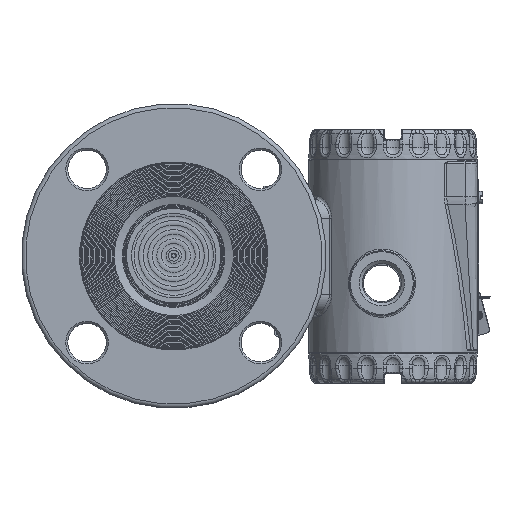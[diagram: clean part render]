
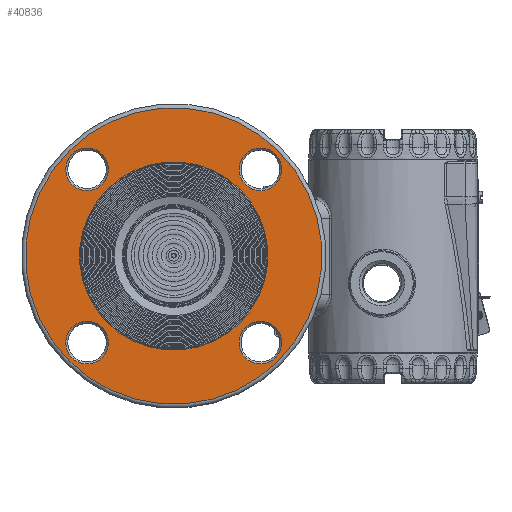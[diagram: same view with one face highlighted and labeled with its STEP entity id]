
A CAD part, top view. The second image highlights one B-rep face of the part: STEP entity #40836.
In plain terms, the highlighted planar face has unit normal (0, 0, 1).
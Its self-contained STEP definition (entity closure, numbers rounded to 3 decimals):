
#675=FACE_BOUND('',#6744,.T.);
#676=FACE_BOUND('',#6745,.T.);
#677=FACE_BOUND('',#6746,.T.);
#678=FACE_BOUND('',#6747,.T.);
#679=FACE_BOUND('',#6748,.T.);
#2648=PLANE('',#45348);
#4025=FACE_OUTER_BOUND('',#6743,.T.);
#6743=EDGE_LOOP('',(#31069));
#6744=EDGE_LOOP('',(#31070));
#6745=EDGE_LOOP('',(#31071));
#6746=EDGE_LOOP('',(#31072));
#6747=EDGE_LOOP('',(#31073));
#6748=EDGE_LOOP('',(#31074,#31075));
#13417=CIRCLE('',#45343,46.35);
#13421=CIRCLE('',#45347,46.35);
#13422=CIRCLE('',#45349,73.);
#13423=CIRCLE('',#45350,10.5);
#13424=CIRCLE('',#45351,10.5);
#13425=CIRCLE('',#45352,10.5);
#13426=CIRCLE('',#45353,10.5);
#17872=VERTEX_POINT('',#72124);
#17873=VERTEX_POINT('',#72125);
#17876=VERTEX_POINT('',#72134);
#17877=VERTEX_POINT('',#72136);
#17878=VERTEX_POINT('',#72138);
#17879=VERTEX_POINT('',#72140);
#17880=VERTEX_POINT('',#72142);
#22567=EDGE_CURVE('',#17872,#17873,#13417,.T.);
#22571=EDGE_CURVE('',#17873,#17872,#13421,.T.);
#22572=EDGE_CURVE('',#17876,#17876,#13422,.T.);
#22573=EDGE_CURVE('',#17877,#17877,#13423,.T.);
#22574=EDGE_CURVE('',#17878,#17878,#13424,.T.);
#22575=EDGE_CURVE('',#17879,#17879,#13425,.T.);
#22576=EDGE_CURVE('',#17880,#17880,#13426,.T.);
#31069=ORIENTED_EDGE('',*,*,#22572,.F.);
#31070=ORIENTED_EDGE('',*,*,#22573,.F.);
#31071=ORIENTED_EDGE('',*,*,#22574,.F.);
#31072=ORIENTED_EDGE('',*,*,#22575,.F.);
#31073=ORIENTED_EDGE('',*,*,#22576,.F.);
#31074=ORIENTED_EDGE('',*,*,#22567,.F.);
#31075=ORIENTED_EDGE('',*,*,#22571,.F.);
#40836=ADVANCED_FACE('',(#4025,#675,#676,#677,#678,#679),#2648,.T.);
#45343=AXIS2_PLACEMENT_3D('',#72126,#53357,#53358);
#45347=AXIS2_PLACEMENT_3D('',#72132,#53365,#53366);
#45348=AXIS2_PLACEMENT_3D('',#72133,#53367,#53368);
#45349=AXIS2_PLACEMENT_3D('',#72135,#53369,#53370);
#45350=AXIS2_PLACEMENT_3D('',#72137,#53371,#53372);
#45351=AXIS2_PLACEMENT_3D('',#72139,#53373,#53374);
#45352=AXIS2_PLACEMENT_3D('',#72141,#53375,#53376);
#45353=AXIS2_PLACEMENT_3D('',#72143,#53377,#53378);
#53357=DIRECTION('center_axis',(0.,0.,1.));
#53358=DIRECTION('ref_axis',(-1.,0.,0.));
#53365=DIRECTION('center_axis',(0.,0.,1.));
#53366=DIRECTION('ref_axis',(-1.,0.,0.));
#53367=DIRECTION('center_axis',(0.,0.,1.));
#53368=DIRECTION('ref_axis',(1.,0.,0.));
#53369=DIRECTION('center_axis',(0.,0.,-1.));
#53370=DIRECTION('ref_axis',(-1.,0.,0.));
#53371=DIRECTION('center_axis',(0.,0.,1.));
#53372=DIRECTION('ref_axis',(-1.,0.,0.));
#53373=DIRECTION('center_axis',(0.,0.,1.));
#53374=DIRECTION('ref_axis',(0.,1.,0.));
#53375=DIRECTION('center_axis',(0.,0.,1.));
#53376=DIRECTION('ref_axis',(1.,0.,0.));
#53377=DIRECTION('center_axis',(0.,0.,1.));
#53378=DIRECTION('ref_axis',(0.,-1.,0.));
#72124=CARTESIAN_POINT('',(46.35,0.,20.));
#72125=CARTESIAN_POINT('',(-46.35,0.,20.));
#72126=CARTESIAN_POINT('Origin',(0.,0.,20.));
#72132=CARTESIAN_POINT('Origin',(0.,0.,20.));
#72133=CARTESIAN_POINT('Origin',(0.,0.,
20.));
#72134=CARTESIAN_POINT('',(73.,0.,20.));
#72135=CARTESIAN_POINT('Origin',(0.,0.,20.));
#72136=CARTESIAN_POINT('',(10.5,60.35,20.));
#72137=CARTESIAN_POINT('Origin',(0.,60.35,20.));
#72138=CARTESIAN_POINT('',(60.35,-10.5,20.));
#72139=CARTESIAN_POINT('Origin',(60.35,0.,20.));
#72140=CARTESIAN_POINT('',(-10.5,-60.35,20.));
#72141=CARTESIAN_POINT('Origin',(0.,-60.35,20.));
#72142=CARTESIAN_POINT('',(-60.35,10.5,20.));
#72143=CARTESIAN_POINT('Origin',(-60.35,0.,20.));
